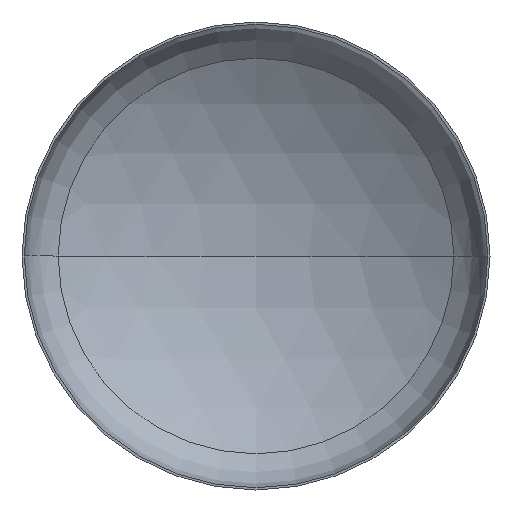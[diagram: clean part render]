
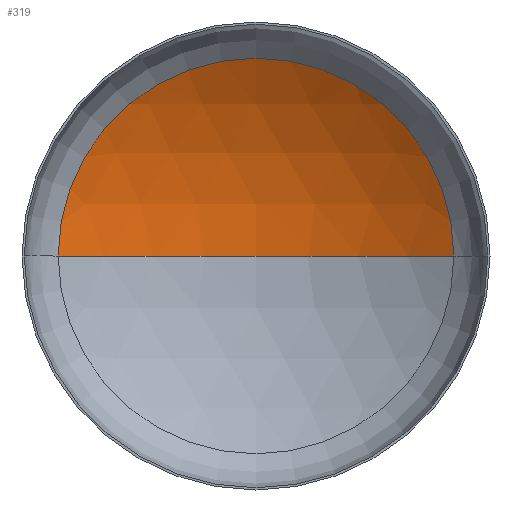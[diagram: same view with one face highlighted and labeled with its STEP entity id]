
A CAD part, front view. The second image highlights one B-rep face of the part: STEP entity #319.
In plain terms, the highlighted spherical face has radius 5200 mm.
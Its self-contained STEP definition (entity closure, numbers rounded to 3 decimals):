
#17 = VERTEX_POINT ( 'NONE', #341 ) ;
#36 = AXIS2_PLACEMENT_3D ( 'NONE', #79, #239, #88 ) ;
#41 = ORIENTED_EDGE ( 'NONE', *, *, #174, .F. ) ;
#79 = CARTESIAN_POINT ( 'NONE',  ( 0., -3465.956, 0. ) ) ;
#82 = AXIS2_PLACEMENT_3D ( 'NONE', #167, #164, #163 ) ;
#83 = VERTEX_POINT ( 'NONE', #318 ) ;
#88 = DIRECTION ( 'NONE',  ( -1., 0., 0. ) ) ;
#89 = AXIS2_PLACEMENT_3D ( 'NONE', #185, #184, #172 ) ;
#94 = AXIS2_PLACEMENT_3D ( 'NONE', #150, #179, #175 ) ;
#96 = VERTEX_POINT ( 'NONE', #330 ) ;
#98 = EDGE_LOOP ( 'NONE', ( #41, #151, #133 ) ) ;
#133 = ORIENTED_EDGE ( 'NONE', *, *, #171, .T. ) ;
#143 = SPHERICAL_SURFACE ( 'NONE', #36, 5200. ) ;
#150 = CARTESIAN_POINT ( 'NONE',  ( 0., 949.037, 0. ) ) ;
#151 = ORIENTED_EDGE ( 'NONE', *, *, #173, .T. ) ;
#163 = DIRECTION ( 'NONE',  ( 1., 0., 0. ) ) ;
#164 = DIRECTION ( 'NONE',  ( 0., 0., 1. ) ) ;
#167 = CARTESIAN_POINT ( 'NONE',  ( 0., -3465.956, 0. ) ) ;
#169 = CIRCLE ( 'NONE', #89, 5200. ) ;
#171 = EDGE_CURVE ( 'NONE', #17, #83, #248, .T. ) ;
#172 = DIRECTION ( 'NONE',  ( -1., 0., 0. ) ) ;
#173 = EDGE_CURVE ( 'NONE', #96, #17, #169, .T. ) ;
#174 = EDGE_CURVE ( 'NONE', #96, #83, #358, .T. ) ;
#175 = DIRECTION ( 'NONE',  ( 1., 0., 0. ) ) ;
#179 = DIRECTION ( 'NONE',  ( 0., -1., 0. ) ) ;
#184 = DIRECTION ( 'NONE',  ( 0., 0., -1. ) ) ;
#185 = CARTESIAN_POINT ( 'NONE',  ( 0., -3465.956, 0. ) ) ;
#217 = FACE_OUTER_BOUND ( 'NONE', #98, .T. ) ;
#239 = DIRECTION ( 'NONE',  ( 0., 0., -1. ) ) ;
#248 = CIRCLE ( 'NONE', #94, 2747.333 ) ;
#318 = CARTESIAN_POINT ( 'NONE',  ( -2747.333, 949.037, 0. ) ) ;
#319 = ADVANCED_FACE ( 'NONE', ( #217 ), #143, .F. ) ;
#330 = CARTESIAN_POINT ( 'NONE',  ( 0., 1734.044, 0. ) ) ;
#341 = CARTESIAN_POINT ( 'NONE',  ( 2747.333, 949.037, 0. ) ) ;
#358 = CIRCLE ( 'NONE', #82, 5200. ) ;
